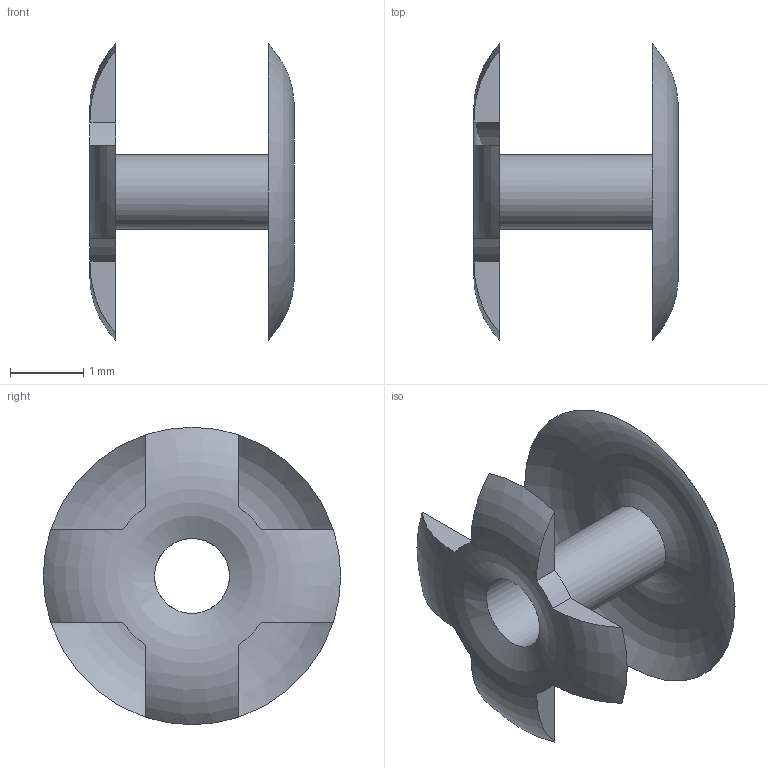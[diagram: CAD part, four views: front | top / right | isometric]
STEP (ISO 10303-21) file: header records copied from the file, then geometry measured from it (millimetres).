
FILE_DESCRIPTION(/* description */ ('STEP AP242 Edition 2','CAx-IF Rec.Pracs.---Representation and Presentation of Product Manufacturing Information (PMI)---4.0---2014-10-13','CAx-IF Rec.Pracs.---3D Tessellated Geometry---0.4---2014-09-14','2;1','CAx-IF Rec.Pracs.---User Defined Attributes---1.5---2016-08-15'),/* implementation_level */ '2;1');
FILE_NAME(/* name */ 'Part Studio 1 - Surface 34',/* time_stamp */ '2026-11-25T23:28:52Z',/* author */ (''),/* organization */ (''),/* preprocessor_version */ 'ST-DEVELOPER v20',/* originating_system */ 'ONSHAPE BY PTC INC, 1.224',/* authorisation */ ' ');
FILE_SCHEMA (('AP242_MANAGED_MODEL_BASED_3D_ENGINEERING_MIM_LF { 1 0 10303 442 3 1 4 }'));
Length unit declared in the file: metre
Products named in the file (1): NONE
Bounding box: 2.79 x 4.06 x 4.06 mm (x, y, z)
Surface area: 32.2 mm2 (no closed solid volume)
Topology: 0 solids, 1 shells, 14 faces, 42 edges, 28 vertices
Faces by surface type: plane 8, cylinder 4, torus 2
Full cylindrical faces by diameter (mm): 1.024 x1
Entity records: 462 total; most frequent: CARTESIAN_POINT 104, DIRECTION 74, ORIENTED_EDGE 57, EDGE_CURVE 38, AXIS2_PLACEMENT_3D 29, VERTEX_POINT 27, EDGE_LOOP 17, FACE_BOUND 17
